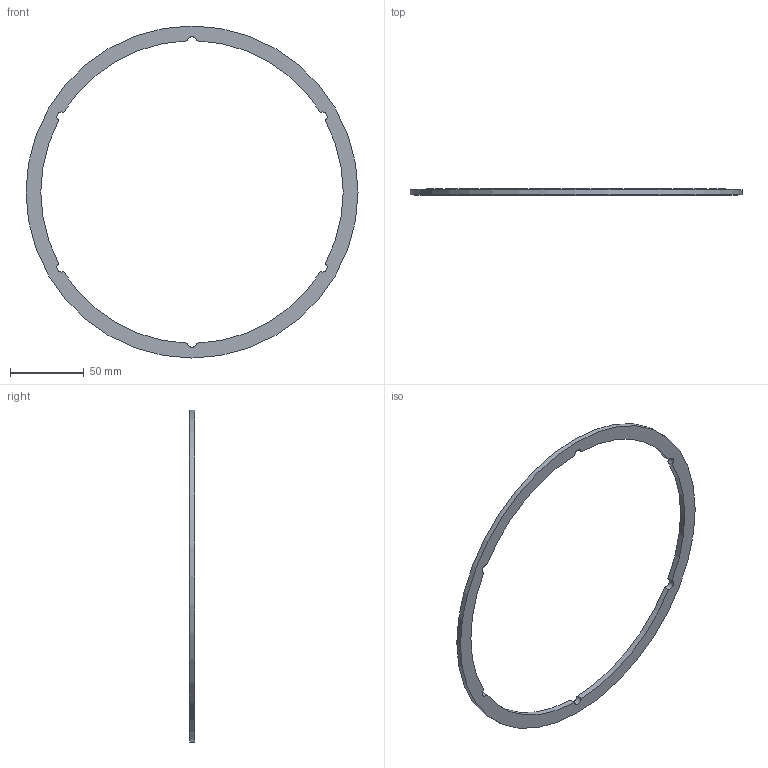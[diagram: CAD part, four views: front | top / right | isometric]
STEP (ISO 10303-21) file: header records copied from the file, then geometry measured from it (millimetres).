
FILE_DESCRIPTION( ( 'Unknown' ), '1' );
FILE_NAME( 'F:/navkite transat/construction/2016/3D ET ASSEMBLAGES/self tailing/WI 13.stp', 'Unknown', ( 'GMA' ), ( 'Unknown' ), 'XStep 1.0', 'Unknown', ' ' );
FILE_SCHEMA( ( 'automotive_design' ) );
Length unit declared in the file: millimetre
Products named in the file (1): 1
Bounding box: 225 x 4 x 225 mm (x, y, z)
Volume: 24984.7 mm3; surface area: 18469.8 mm2
Topology: 1 solids, 1 shells, 15 faces, 41 edges, 27 vertices
Faces by surface type: cylinder 13, plane 1, cone 1
Full cylindrical faces by diameter (mm): 225 x1
Entity records: 782 total; most frequent: CARTESIAN_POINT 266, DIRECTION 84, ORIENTED_EDGE 76, EDGE_CURVE 38, AXIS2_PLACEMENT_3D 36, VERTEX_POINT 26, CIRCLE 20, EDGE_LOOP 18
